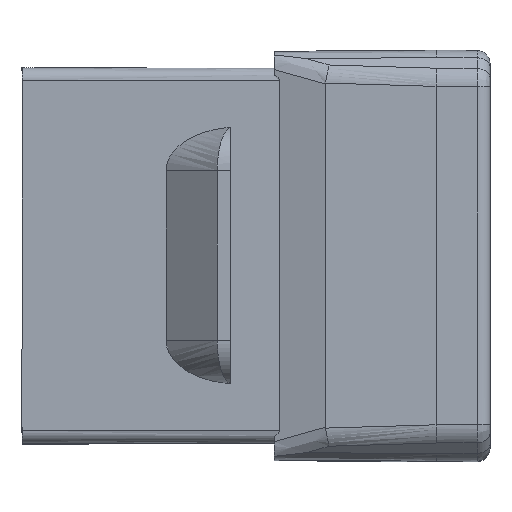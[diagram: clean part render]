
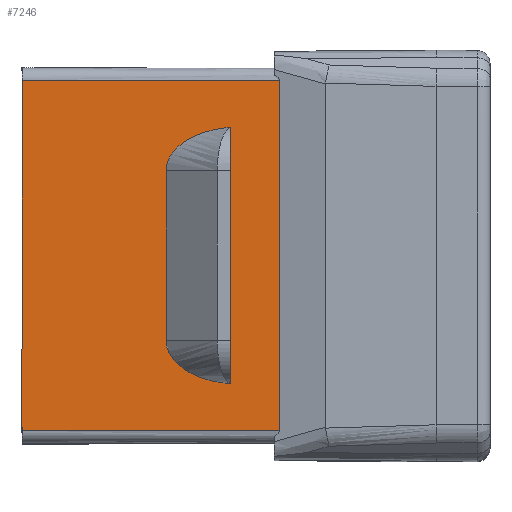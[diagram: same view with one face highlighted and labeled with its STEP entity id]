
A CAD part, top view. The second image highlights one B-rep face of the part: STEP entity #7246.
In plain terms, the highlighted free-form (B-spline) face has degree [1, 1] with [2, 2] control points.
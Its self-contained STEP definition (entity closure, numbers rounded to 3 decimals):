
#1536=CARTESIAN_POINT('',(8.1,12.988,19.282));
#1537=VERTEX_POINT('',#1536);
#1538=CARTESIAN_POINT('',(8.1,3.012,19.282));
#1539=VERTEX_POINT('',#1538);
#1540=CARTESIAN_POINT('',(8.1,12.988,19.282));
#1541=CARTESIAN_POINT('',(8.1,10.993,19.282));
#1542=CARTESIAN_POINT('',(8.1,8.998,19.282));
#1543=CARTESIAN_POINT('',(8.1,7.002,19.282));
#1544=CARTESIAN_POINT('',(8.1,5.007,19.282));
#1545=CARTESIAN_POINT('',(8.1,3.012,19.282));
#1546=B_SPLINE_CURVE_WITH_KNOTS('',5,(#1540,#1541,#1542,#1543,#1544,#1545),.UNSPECIFIED.,.F.,.U.,(6,6),(0.,9.976),.UNSPECIFIED.);
#1547=EDGE_CURVE('',#1537,#1539,#1546,.T.);
#1634=CARTESIAN_POINT('',(5.6,11.3,19.257));
#1635=VERTEX_POINT('',#1634);
#1636=CARTESIAN_POINT('',(5.6,11.3,19.257));
#1637=CARTESIAN_POINT('',(5.6,11.423,19.257));
#1638=CARTESIAN_POINT('',(5.619,11.547,19.257));
#1639=CARTESIAN_POINT('',(5.656,11.669,19.258));
#1640=CARTESIAN_POINT('',(5.767,11.907,19.259));
#1641=CARTESIAN_POINT('',(5.949,12.13,19.261));
#1642=CARTESIAN_POINT('',(6.056,12.236,19.262));
#1643=CARTESIAN_POINT('',(6.301,12.436,19.264));
#1644=CARTESIAN_POINT('',(6.603,12.605,19.267));
#1645=CARTESIAN_POINT('',(6.766,12.682,19.269));
#1646=CARTESIAN_POINT('',(7.113,12.816,19.272));
#1647=CARTESIAN_POINT('',(7.495,12.911,19.276));
#1648=CARTESIAN_POINT('',(7.693,12.947,19.278));
#1649=CARTESIAN_POINT('',(7.896,12.973,19.28));
#1650=CARTESIAN_POINT('',(8.1,12.988,19.282));
#1651=B_SPLINE_CURVE_WITH_KNOTS('',5,(#1636,#1637,#1638,#1639,#1640,#1641,#1642,#1643,#1644,#1645,#1646,#1647,#1648,#1649,#1650),.UNSPECIFIED.,.F.,.U.,(6,3,3,3,6),(0.,0.363,0.726,1.089,1.451),.UNSPECIFIED.);
#1652=EDGE_CURVE('',#1635,#1537,#1651,.T.);
#1692=CARTESIAN_POINT('',(5.6,4.7,19.257));
#1693=VERTEX_POINT('',#1692);
#1694=CARTESIAN_POINT('',(5.6,4.7,19.257));
#1695=CARTESIAN_POINT('',(5.6,6.02,19.257));
#1696=CARTESIAN_POINT('',(5.6,7.34,19.257));
#1697=CARTESIAN_POINT('',(5.6,8.66,19.257));
#1698=CARTESIAN_POINT('',(5.6,9.98,19.257));
#1699=CARTESIAN_POINT('',(5.6,11.3,19.257));
#1700=B_SPLINE_CURVE_WITH_KNOTS('',5,(#1694,#1695,#1696,#1697,#1698,#1699),.UNSPECIFIED.,.F.,.U.,(6,6),(0.,6.6),.UNSPECIFIED.);
#1701=EDGE_CURVE('',#1693,#1635,#1700,.T.);
#1763=CARTESIAN_POINT('',(8.1,3.012,19.282));
#1764=CARTESIAN_POINT('',(7.896,3.027,19.28));
#1765=CARTESIAN_POINT('',(7.693,3.053,19.278));
#1766=CARTESIAN_POINT('',(7.495,3.089,19.276));
#1767=CARTESIAN_POINT('',(7.113,3.184,19.272));
#1768=CARTESIAN_POINT('',(6.766,3.318,19.269));
#1769=CARTESIAN_POINT('',(6.603,3.395,19.267));
#1770=CARTESIAN_POINT('',(6.301,3.564,19.264));
#1771=CARTESIAN_POINT('',(6.056,3.764,19.262));
#1772=CARTESIAN_POINT('',(5.949,3.87,19.261));
#1773=CARTESIAN_POINT('',(5.767,4.093,19.259));
#1774=CARTESIAN_POINT('',(5.656,4.331,19.258));
#1775=CARTESIAN_POINT('',(5.619,4.453,19.257));
#1776=CARTESIAN_POINT('',(5.6,4.577,19.257));
#1777=CARTESIAN_POINT('',(5.6,4.7,19.257));
#1778=B_SPLINE_CURVE_WITH_KNOTS('',5,(#1763,#1764,#1765,#1766,#1767,#1768,#1769,#1770,#1771,#1772,#1773,#1774,#1775,#1776,#1777),.UNSPECIFIED.,.F.,.U.,(6,3,3,3,6),(0.,0.363,0.726,1.089,1.451),.UNSPECIFIED.);
#1779=EDGE_CURVE('',#1539,#1693,#1778,.T.);
#7082=CARTESIAN_POINT('',(0.,1.2,19.2));
#7083=VERTEX_POINT('',#7082);
#7102=CARTESIAN_POINT('',(0.,14.8,19.2));
#7103=VERTEX_POINT('',#7102);
#7104=CARTESIAN_POINT('',(0.,1.2,19.2));
#7105=CARTESIAN_POINT('',(0.,3.92,19.2));
#7106=CARTESIAN_POINT('',(0.,6.64,19.2));
#7107=CARTESIAN_POINT('',(0.,9.36,19.2));
#7108=CARTESIAN_POINT('',(0.,12.08,19.2));
#7109=CARTESIAN_POINT('',(0.,14.8,19.2));
#7110=B_SPLINE_CURVE_WITH_KNOTS('',5,(#7104,#7105,#7106,#7107,#7108,#7109),.UNSPECIFIED.,.F.,.U.,(6,6),(0.,13.6),.UNSPECIFIED.);
#7111=EDGE_CURVE('',#7083,#7103,#7110,.T.);
#7165=CARTESIAN_POINT('',(10.016,14.794,19.302));
#7166=VERTEX_POINT('',#7165);
#7167=CARTESIAN_POINT('',(0.,14.8,19.2));
#7168=CARTESIAN_POINT('',(2.003,14.799,19.22));
#7169=CARTESIAN_POINT('',(4.007,14.797,19.241));
#7170=CARTESIAN_POINT('',(6.01,14.796,19.261));
#7171=CARTESIAN_POINT('',(8.013,14.795,19.282));
#7172=CARTESIAN_POINT('',(10.016,14.794,19.302));
#7173=B_SPLINE_CURVE_WITH_KNOTS('',5,(#7167,#7168,#7169,#7170,#7171,#7172),.UNSPECIFIED.,.F.,.U.,(6,6),(0.,10.017),.UNSPECIFIED.);
#7174=EDGE_CURVE('',#7103,#7166,#7173,.T.);
#7197=CARTESIAN_POINT('',(10.016,1.206,19.302));
#7198=VERTEX_POINT('',#7197);
#7199=CARTESIAN_POINT('',(10.016,1.206,19.302));
#7200=CARTESIAN_POINT('',(10.016,3.924,19.302));
#7201=CARTESIAN_POINT('',(10.016,6.641,19.302));
#7202=CARTESIAN_POINT('',(10.016,9.359,19.302));
#7203=CARTESIAN_POINT('',(10.016,12.076,19.302));
#7204=CARTESIAN_POINT('',(10.016,14.794,19.302));
#7205=B_SPLINE_CURVE_WITH_KNOTS('',5,(#7199,#7200,#7201,#7202,#7203,#7204),.UNSPECIFIED.,.F.,.U.,(6,6),(0.,13.587),.UNSPECIFIED.);
#7206=EDGE_CURVE('',#7198,#7166,#7205,.T.);
#7221=CARTESIAN_POINT('',(0.,1.2,19.2));
#7222=CARTESIAN_POINT('',(0.,14.8,19.2));
#7223=CARTESIAN_POINT('',(10.016,1.2,19.302));
#7224=CARTESIAN_POINT('',(10.016,14.8,19.302));
#7225=B_SPLINE_SURFACE_WITH_KNOTS('',1,1,((#7221,#7222),(#7223,#7224)),.PLANE_SURF.,.F.,.F.,.U.,(2,2),(2,2),(0.,1.),(0.,1.358),.UNSPECIFIED.);
#7226=ORIENTED_EDGE('',*,*,#7174,.F.);
#7227=ORIENTED_EDGE('',*,*,#7111,.F.);
#7228=CARTESIAN_POINT('',(10.016,1.206,19.302));
#7229=CARTESIAN_POINT('',(8.013,1.205,19.282));
#7230=CARTESIAN_POINT('',(6.01,1.204,19.261));
#7231=CARTESIAN_POINT('',(4.007,1.203,19.241));
#7232=CARTESIAN_POINT('',(2.003,1.201,19.22));
#7233=CARTESIAN_POINT('',(0.,1.2,19.2));
#7234=B_SPLINE_CURVE_WITH_KNOTS('',5,(#7228,#7229,#7230,#7231,#7232,#7233),.UNSPECIFIED.,.F.,.U.,(6,6),(0.,10.017),.UNSPECIFIED.);
#7235=EDGE_CURVE('',#7198,#7083,#7234,.T.);
#7236=ORIENTED_EDGE('',*,*,#7235,.F.);
#7237=ORIENTED_EDGE('',*,*,#7206,.T.);
#7238=EDGE_LOOP('',(#7226,#7227,#7236,#7237));
#7239=FACE_OUTER_BOUND('',#7238,.T.);
#7240=ORIENTED_EDGE('',*,*,#1652,.T.);
#7241=ORIENTED_EDGE('',*,*,#1547,.T.);
#7242=ORIENTED_EDGE('',*,*,#1779,.T.);
#7243=ORIENTED_EDGE('',*,*,#1701,.T.);
#7244=EDGE_LOOP('',(#7240,#7241,#7242,#7243));
#7245=FACE_BOUND('',#7244,.T.);
#7246=ADVANCED_FACE('',(#7239,#7245),#7225,.T.);
